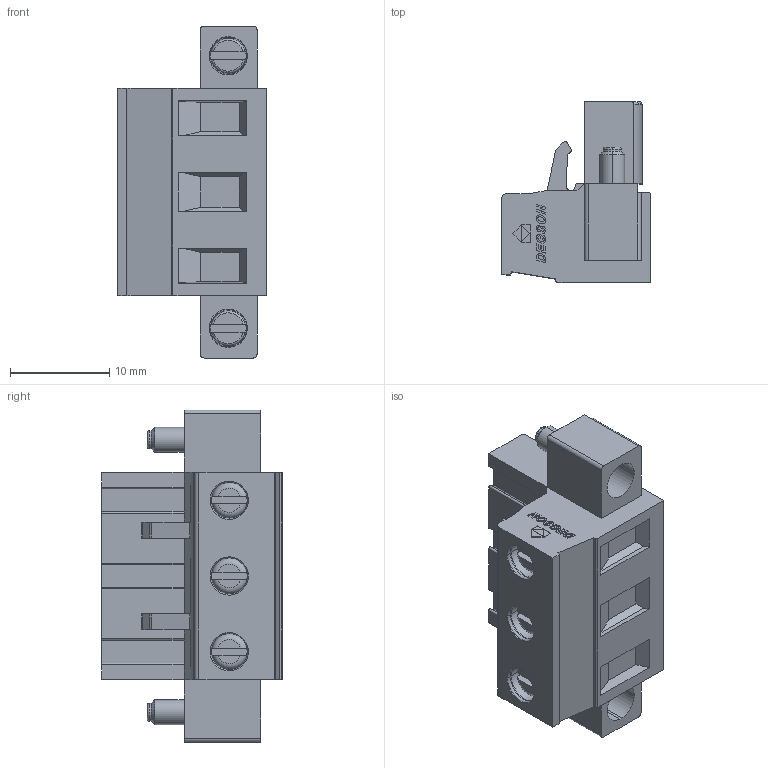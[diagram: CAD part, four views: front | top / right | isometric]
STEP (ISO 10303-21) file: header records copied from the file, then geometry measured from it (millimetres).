
FILE_DESCRIPTION((''),'2;1');
FILE_NAME('3','2020-06-03T',('Administrator'),(''),'PRO/ENGINEER BY PARAMETRIC TECHNOLOGY CORPORATION, 2012360','PRO/ENGINEER BY PARAMETRIC TECHNOLOGY CORPORATION, 2012360','');
FILE_SCHEMA(('AUTOMOTIVE_DESIGN { 1 0 10303 214 1 1 1 1 }'));
Length unit declared in the file: millimetre
Products named in the file (1): 3
Bounding box: 15 x 18.2 x 33.44 mm (x, y, z)
Volume: 4060.7 mm3; surface area: 2663.5 mm2
Topology: 1 solids, 1 shells, 569 faces, 1642 edges, 1103 vertices
Faces by surface type: plane 445, cylinder 77, torus 33, cone 14
Entity records: 18948 total; most frequent: CARTESIAN_POINT 3671, ORIENTED_EDGE 3284, DIRECTION 3038, EDGE_CURVE 1642, VECTOR 1292, LINE 1292, VERTEX_POINT 1103, AXIS2_PLACEMENT_3D 873
